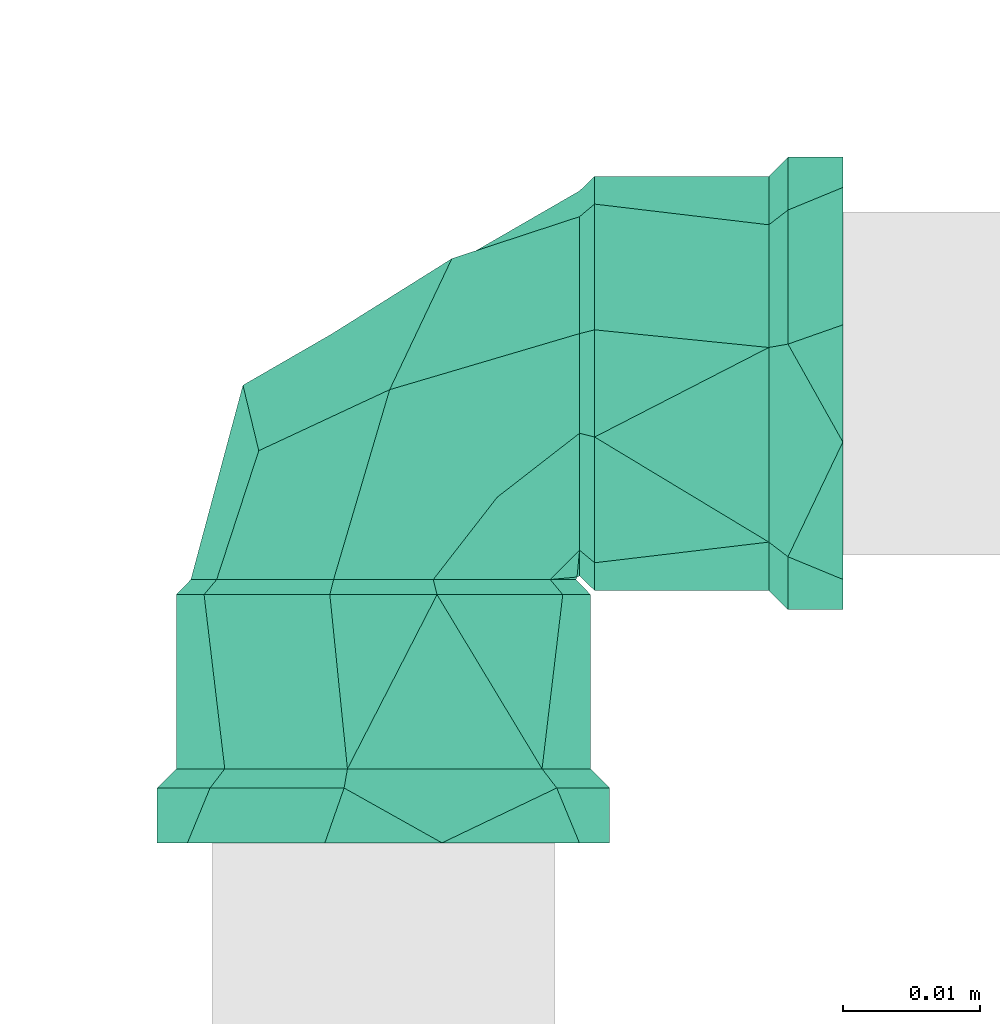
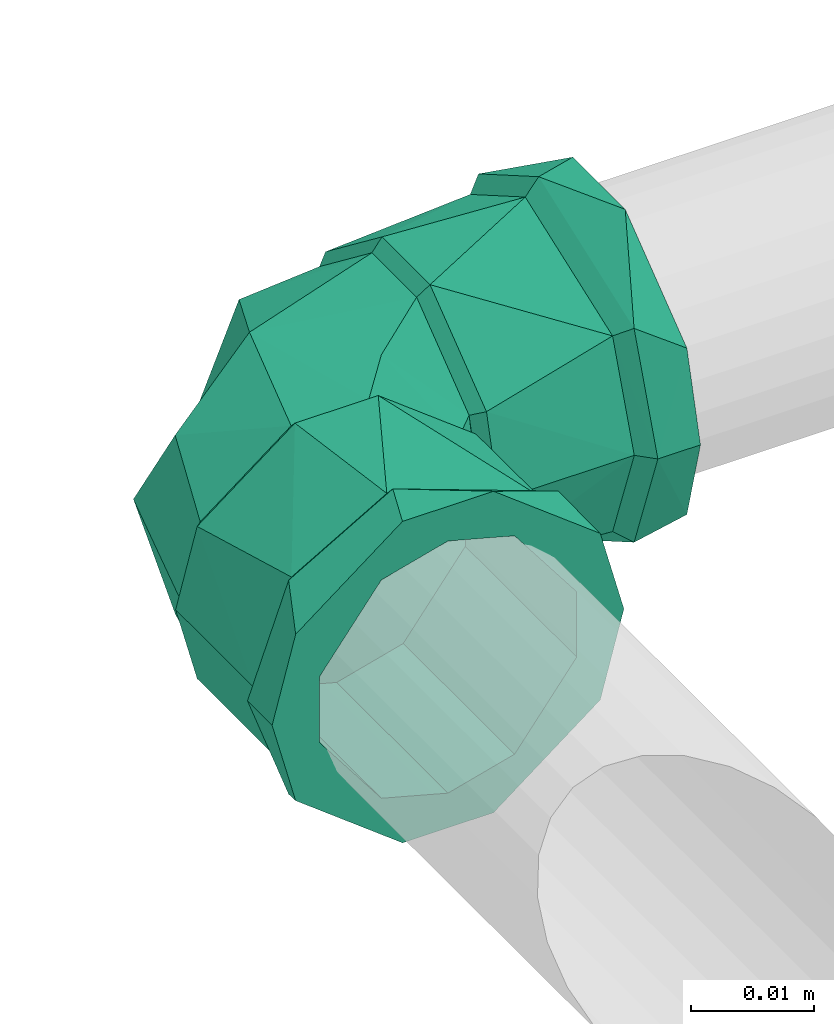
# One storey, part 336 of 589: 1 flow fitting.
"""IFC2X3 building model written with IfcOpenShell, lengths in millimetres."""

import ifcopenshell
import ifcopenshell.guid

model = None  # the IFC model being written
_history = None  # IfcOwnerHistory: only IFC2X3 demands one
_inside = {}  # id of a spatial element -> (the spatial element, [elements in it])
_under = {}  # id of a project, library or spatial element -> (it, [spatial elements below it])
_declared = {}  # id of a project -> (the project, [libraries it declares])
_typed = {}  # id of a type object -> (the type object, [elements of that type])
_made_of = {}  # id of a material, layer set ... -> (it, [elements and type objects made of it])


def new_model(schema):
    """Start an empty IFC model of exactly this schema.

    Asked for "IFC4X3", IfcOpenShell would pick the latest addendum, in which some entities
    have other attributes; the version numbers below select the first issue.
    IFC2X3 requires an IfcOwnerHistory on every rooted entity: one is made here for all.
    """
    global model, _history
    if schema == "IFC4X3":
        model = ifcopenshell.file(schema_version=(4, 3, 0, 0))
    else:
        model = ifcopenshell.file(schema=schema)
    _inside.clear()
    _under.clear()
    _declared.clear()
    _typed.clear()
    _made_of.clear()
    _history = None
    if model.schema == "IFC2X3":
        org = make("IfcOrganization", Name="unknown")
        user = make(
            "IfcPersonAndOrganization",
            ThePerson=make("IfcPerson", FamilyName="unknown"),
            TheOrganization=org,
        )
        app = make(
            "IfcApplication",
            ApplicationDeveloper=org,
            Version="unknown",
            ApplicationFullName="unknown",
            ApplicationIdentifier="unknown",
        )
        _history = make(
            "IfcOwnerHistory",
            OwningUser=user,
            OwningApplication=app,
            ChangeAction="ADDED",
            CreationDate=0,
        )
    return model


def make(cls, **values):
    """One entity of the class cls with the attributes given. An attribute that is None is left unset."""
    return model.create_entity(
        cls, **{name: value for name, value in values.items() if value is not None}
    )


def entity(cls, *values):
    """Any entity or typed value of the class cls, its attributes in the order of the schema. None: left unset."""
    e = model.create_entity(cls)
    for i, value in enumerate(values):
        if value is not None:
            e[i] = value
    return e


def rooted(cls, **values):
    """An entity with a GlobalId (a new one), such as an element, a storey or a relation."""
    return make(cls, GlobalId=ifcopenshell.guid.new(), OwnerHistory=_history, **values)


def si_unit(unit_type, name, prefix=None):
    """IfcSIUnit, for example si_unit("LENGTHUNIT", "METRE", prefix="MILLI")."""
    return make("IfcSIUnit", UnitType=unit_type, Prefix=prefix, Name=name)


def converted_unit(unit_type, name, factor, base, dimensions=None, offset=None):
    """IfcConversionBasedUnit, such as the inch: factor (a typed value) times the base unit."""
    return make(
        "IfcConversionBasedUnit"
        if offset is None
        else "IfcConversionBasedUnitWithOffset",
        ConversionOffset=offset,
        Dimensions=None
        if dimensions is None
        else entity("IfcDimensionalExponents", *dimensions),
        UnitType=unit_type,
        Name=name,
        ConversionFactor=make(
            "IfcMeasureWithUnit", ValueComponent=factor, UnitComponent=base
        ),
    )


def derived_unit(unit_type, elements):
    """IfcDerivedUnit: a product of units, each with its exponent."""
    return make(
        "IfcDerivedUnit",
        Elements=[
            make("IfcDerivedUnitElement", Unit=unit, Exponent=power)
            for unit, power in elements
        ],
        UnitType=unit_type,
    )


def assignment(units):
    """IfcUnitAssignment: the units of a project."""
    return None if units is None else make("IfcUnitAssignment", Units=units)


def point(xyz):
    """IfcCartesianPoint."""
    return None if xyz is None else make("IfcCartesianPoint", Coordinates=xyz)


def direction(xyz):
    """IfcDirection."""
    return None if xyz is None else make("IfcDirection", DirectionRatios=xyz)


def frame(location, z_axis=None, x_axis=None):
    """IfcAxis2Placement3D, a coordinate frame: its origin and axes. An axis left out is left unset."""
    return make(
        "IfcAxis2Placement3D",
        Location=point(location),
        Axis=direction(z_axis),
        RefDirection=direction(x_axis),
    )


def origin():
    """The frame at (0, 0, 0) with its axes left unset."""
    return frame((0.0, 0.0, 0.0))


def place(relative_to, where):
    """IfcLocalPlacement: puts the frame where relative to a parent placement (None: the world)."""
    return make(
        "IfcLocalPlacement", PlacementRelTo=relative_to, RelativePlacement=where
    )


def context(
    kind, dimensions, precision=None, world=None, true_north=None, identifier=None
):
    """IfcGeometricRepresentationContext, for example the 3D "Model" context."""
    return make(
        "IfcGeometricRepresentationContext",
        ContextIdentifier=identifier,
        ContextType=kind,
        CoordinateSpaceDimension=dimensions,
        Precision=precision,
        WorldCoordinateSystem=world,
        TrueNorth=true_north,
    )


def subcontext(parent, identifier, kind, view, scale=None):
    """IfcGeometricRepresentationSubContext, for example "Body" below "Model"."""
    return make(
        "IfcGeometricRepresentationSubContext",
        ContextIdentifier=identifier,
        ContextType=kind,
        ParentContext=parent,
        TargetScale=scale,
        TargetView=view,
    )


def project(units=None, contexts=None):
    """IfcProject with its units and contexts."""
    return rooted(
        "IfcProject",
        Name="project",
        RepresentationContexts=contexts,
        UnitsInContext=assignment(units),
    )


def spatial(cls, under=None, at=None, **own):
    """A site, building, storey or space (cls), placed at a placement, below another one or the project."""
    s = rooted(cls, ObjectPlacement=at, **own)
    if under is not None:
        _under.setdefault(under.id(), (under, []))[1].append(s)
    return s


def faces_of(points, faces, orient=None, outer=None):
    """IfcFace entities. A face is a list of loops; a loop is a list of indices into points, from 0.

    orient and outer hold one flag for each loop. By default every Orientation is true, the
    first loop of a face is its IfcFaceOuterBound and the others are IfcFaceBound.
    """
    made = []
    for i, loops in enumerate(faces):
        bounds = []
        for j, loop in enumerate(loops):
            is_outer = j == 0 if outer is None else outer[i][j]
            bounds.append(
                make(
                    "IfcFaceOuterBound" if is_outer else "IfcFaceBound",
                    Bound=make("IfcPolyLoop", Polygon=[points[k] for k in loop]),
                    Orientation=True if orient is None else orient[i][j],
                )
            )
        made.append(make("IfcFace", Bounds=bounds))
    return made


def faceted_brep(points, faces, orient=None, outer=None, voids=None):
    """IfcFacetedBrep: a solid bounded by flat faces; with voids (closed shells), ...WithVoids."""
    shared = [point(p) for p in points]
    hull = make("IfcClosedShell", CfsFaces=faces_of(shared, faces, orient, outer))
    if voids is None:
        return make("IfcFacetedBrep", Outer=hull)
    return make(
        "IfcFacetedBrepWithVoids",
        Outer=hull,
        Voids=[
            make(cls, CfsFaces=faces_of(shared, fs, o, b)) for cls, fs, o, b in voids
        ],
    )


def shape(context_of_items, identifier, shape_type, items):
    """IfcShapeRepresentation: the items that make up one representation, for example the "Body"."""
    return make(
        "IfcShapeRepresentation",
        ContextOfItems=context_of_items,
        RepresentationIdentifier=identifier,
        RepresentationType=shape_type,
        Items=items,
    )


def source(mapping_origin, context_of_items, identifier, shape_type, items):
    """IfcRepresentationMap: a shape defined once, which mapped items show again and again."""
    return make(
        "IfcRepresentationMap",
        MappingOrigin=mapping_origin,
        MappedRepresentation=shape(context_of_items, identifier, shape_type, items),
    )


def transform(
    local_origin,
    x_axis=None,
    y_axis=None,
    z_axis=None,
    scale=None,
    scale2=None,
    scale3=None,
    uniform=True,
):
    """IfcCartesianTransformationOperator3D, or its non-uniform kind. x_axis, y_axis, z_axis: its Axis1, 2, 3."""
    if uniform:
        return make(
            "IfcCartesianTransformationOperator3D",
            Axis1=direction(x_axis),
            Axis2=direction(y_axis),
            LocalOrigin=point(local_origin),
            Scale=scale,
            Axis3=direction(z_axis),
        )
    return make(
        "IfcCartesianTransformationOperator3DnonUniform",
        Axis1=direction(x_axis),
        Axis2=direction(y_axis),
        LocalOrigin=point(local_origin),
        Scale=scale,
        Axis3=direction(z_axis),
        Scale2=scale2,
        Scale3=scale3,
    )


def mapped(mapping_source, mapping_target):
    """IfcMappedItem: shows the shape of a source again, moved by a transform."""
    return make(
        "IfcMappedItem", MappingSource=mapping_source, MappingTarget=mapping_target
    )


def material(Name=None, Category=None):
    """IfcMaterial."""
    return make("IfcMaterial", Name=Name, Category=Category)


def made_of(thing, what):
    """Note that an element or type object is made of a material, layer set ...; save() writes the relation."""
    if what is not None:
        _made_of.setdefault(what.id(), (what, []))[1].append(thing)
    return thing


def type_object(cls, material=None, **own):
    """A type object (cls), such as IfcWallType, which elements share."""
    return made_of(rooted(cls, **own), material)


def type_shapes(of_type, sources):
    """Give a type object the sources (RepresentationMaps) that its elements show as mapped items."""
    of_type.RepresentationMaps = sources


def element(
    cls,
    number,
    at=None,
    inside=None,
    cuts=None,
    type_object=None,
    material=None,
    context=None,
    identifier="Body",
    shape_type=None,
    held_by="IfcProductDefinitionShape",
    body=None,
    shapes=None,
    **own,
):
    """One element of the class cls, such as IfcWall. Its Tag is "e" and its number.

    at: its placement. inside: the storey or other place that contains it. cuts: it is an
    opening in that element (IfcRelVoidsElement). A single representation is given by context,
    identifier, shape_type and body (its items); several are given by shapes. held_by: the class
    of the entity that holds the representations. save() writes the other relations.
    """
    e = rooted(cls, Tag="e%d" % number, ObjectPlacement=at, **own)
    if body is not None:
        shapes = [shape(context, identifier, shape_type, body)]
    if shapes is not None:
        e.Representation = make(held_by, Representations=shapes)
    if inside is not None:
        _inside.setdefault(inside.id(), (inside, []))[1].append(e)
    if cuts is not None:
        rooted(
            "IfcRelVoidsElement", RelatingBuildingElement=cuts, RelatedOpeningElement=e
        )
    if type_object is not None:
        _typed.setdefault(type_object.id(), (type_object, []))[1].append(e)
    return made_of(e, material)


def aggregate(whole, parts):
    """IfcRelAggregates: a whole, such as a stair, and the parts it consists of."""
    return rooted("IfcRelAggregates", RelatingObject=whole, RelatedObjects=parts)


def save(model, path):
    """Write the relations noted so far, then the file.

    IfcRelAggregates (storeys below a building ...), IfcRelContainedInSpatialStructure (elements
    in a storey), IfcRelDefinesByType, IfcRelAssociatesMaterial and IfcRelDeclares: one each for
    every whole, place, type object, material and project.
    """
    for whole, parts in _under.values():
        aggregate(whole, parts)
    for where, things in _inside.values():
        rooted(
            "IfcRelContainedInSpatialStructure",
            RelatedElements=things,
            RelatingStructure=where,
        )
    for kind, things in _typed.values():
        rooted("IfcRelDefinesByType", RelatedObjects=things, RelatingType=kind)
    for what, things in _made_of.values():
        rooted("IfcRelAssociatesMaterial", RelatedObjects=things, RelatingMaterial=what)
    for by, libraries in _declared.values():
        rooted("IfcRelDeclares", RelatingContext=by, RelatedDefinitions=libraries)
    model.write(path)


model = new_model("IFC2X3")

# Units and contexts
model_context = context("Model", 3, precision=0.01, world=origin(), true_north=direction((6.123031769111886e-17, 1.0)))
body_context = subcontext(model_context, "Body", "Model", "MODEL_VIEW")
ifc_project = project(units=[si_unit("LENGTHUNIT", "METRE", prefix="MILLI"), si_unit("AREAUNIT", "SQUARE_METRE"), si_unit("VOLUMEUNIT", "CUBIC_METRE"), converted_unit("PLANEANGLEUNIT", "DEGREE", entity("IfcRatioMeasure", 0.017453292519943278), si_unit("PLANEANGLEUNIT", "RADIAN"), dimensions=[0, 0, 0, 0, 0, 0, 0]), si_unit("MASSUNIT", "GRAM", prefix="KILO"), derived_unit("MASSDENSITYUNIT", [(si_unit("MASSUNIT", "GRAM", prefix="KILO"), 1), (si_unit("LENGTHUNIT", "METRE"), -3)]), derived_unit("IONCONCENTRATIONUNIT", [(si_unit("MASSUNIT", "GRAM", prefix="KILO"), 1), (si_unit("LENGTHUNIT", "METRE"), -3)]), derived_unit("MOMENTOFINERTIAUNIT", [(si_unit("LENGTHUNIT", "METRE"), 4)]), si_unit("TIMEUNIT", "SECOND"), si_unit("FREQUENCYUNIT", "HERTZ"), si_unit("THERMODYNAMICTEMPERATUREUNIT", "DEGREE_CELSIUS"), derived_unit("THERMALTRANSMITTANCEUNIT", [(si_unit("MASSUNIT", "GRAM", prefix="KILO"), 1), (si_unit("THERMODYNAMICTEMPERATUREUNIT", "KELVIN"), -1), (si_unit("TIMEUNIT", "SECOND"), -3)]), derived_unit("THERMALCONDUCTANCEUNIT", [(si_unit("MASSUNIT", "GRAM", prefix="KILO"), 1), (si_unit("THERMODYNAMICTEMPERATUREUNIT", "KELVIN"), -1), (si_unit("TIMEUNIT", "SECOND"), -3), (si_unit("LENGTHUNIT", "METRE"), 1)]), derived_unit("VOLUMETRICFLOWRATEUNIT", [(si_unit("LENGTHUNIT", "METRE"), 3), (si_unit("TIMEUNIT", "SECOND"), -1)]), derived_unit("MASSFLOWRATEUNIT", [(si_unit("MASSUNIT", "GRAM", prefix="KILO"), 1), (si_unit("TIMEUNIT", "SECOND"), -1)]), derived_unit("ROTATIONALFREQUENCYUNIT", [(si_unit("TIMEUNIT", "SECOND"), -1)]), si_unit("ELECTRICCURRENTUNIT", "AMPERE"), si_unit("ELECTRICVOLTAGEUNIT", "VOLT"), si_unit("POWERUNIT", "WATT"), si_unit("FORCEUNIT", "NEWTON", prefix="KILO"), si_unit("ILLUMINANCEUNIT", "LUX"), si_unit("LUMINOUSFLUXUNIT", "LUMEN"), si_unit("LUMINOUSINTENSITYUNIT", "CANDELA"), derived_unit("USERDEFINED", [(si_unit("MASSUNIT", "GRAM", prefix="KILO"), -1), (si_unit("LENGTHUNIT", "METRE"), -2), (si_unit("TIMEUNIT", "SECOND"), 3), (si_unit("LUMINOUSFLUXUNIT", "LUMEN"), 1)]), derived_unit("USERDEFINED", [(si_unit("MASSUNIT", "GRAM", prefix="KILO"), 1), (si_unit("TIMEUNIT", "SECOND"), -3), (si_unit("LENGTHUNIT", "METRE"), 3), (si_unit("ELECTRICCURRENTUNIT", "AMPERE"), -2)]), derived_unit("SOUNDPOWERUNIT", [(si_unit("MASSUNIT", "GRAM", prefix="KILO"), 1), (si_unit("TIMEUNIT", "SECOND"), -3), (si_unit("LENGTHUNIT", "METRE"), 2)]), derived_unit("SOUNDPRESSUREUNIT", [(si_unit("MASSUNIT", "GRAM", prefix="KILO"), 1), (si_unit("LENGTHUNIT", "METRE"), -1), (si_unit("TIMEUNIT", "SECOND"), -2)]), derived_unit("LINEARVELOCITYUNIT", [(si_unit("LENGTHUNIT", "METRE"), 1), (si_unit("TIMEUNIT", "SECOND"), -1)]), si_unit("PRESSUREUNIT", "PASCAL"), derived_unit("USERDEFINED", [(si_unit("MASSUNIT", "GRAM", prefix="KILO"), 1), (si_unit("LENGTHUNIT", "METRE"), -2), (si_unit("TIMEUNIT", "SECOND"), -2)]), derived_unit("LINEARFORCEUNIT", [(si_unit("MASSUNIT", "GRAM", prefix="KILO"), 1), (si_unit("TIMEUNIT", "SECOND"), -2)]), derived_unit("PLANARFORCEUNIT", [(si_unit("MASSUNIT", "GRAM", prefix="KILO"), 1), (si_unit("LENGTHUNIT", "METRE"), -1), (si_unit("TIMEUNIT", "SECOND"), -2)]), derived_unit("SPECIFICHEATCAPACITYUNIT", [(si_unit("THERMODYNAMICTEMPERATUREUNIT", "KELVIN"), -1), (si_unit("LENGTHUNIT", "METRE"), 2), (si_unit("TIMEUNIT", "SECOND"), -2)]), derived_unit("HEATINGVALUEUNIT", [(si_unit("LENGTHUNIT", "METRE"), 2), (si_unit("TIMEUNIT", "SECOND"), -2)]), derived_unit("VAPORPERMEABILITYUNIT", [(si_unit("LENGTHUNIT", "METRE"), -1), (si_unit("TIMEUNIT", "SECOND"), 1)]), derived_unit("DYNAMICVISCOSITYUNIT", [(si_unit("MASSUNIT", "GRAM", prefix="KILO"), 1), (si_unit("TIMEUNIT", "SECOND"), -1), (si_unit("LENGTHUNIT", "METRE"), -1)]), derived_unit("THERMALEXPANSIONCOEFFICIENTUNIT", [(si_unit("THERMODYNAMICTEMPERATUREUNIT", "KELVIN"), -1)]), derived_unit("MODULUSOFELASTICITYUNIT", [(si_unit("MASSUNIT", "GRAM", prefix="KILO"), 1), (si_unit("LENGTHUNIT", "METRE"), -1), (si_unit("TIMEUNIT", "SECOND"), -2)]), derived_unit("ISOTHERMALMOISTURECAPACITYUNIT", [(si_unit("LENGTHUNIT", "METRE"), 3), (si_unit("MASSUNIT", "GRAM", prefix="KILO"), -1)]), derived_unit("MOISTUREDIFFUSIVITYUNIT", [(si_unit("TIMEUNIT", "SECOND"), -1), (si_unit("LENGTHUNIT", "METRE"), 2)])], contexts=[model_context])

# Site, building, storey
site_placement = place(None, origin())
site = spatial("IfcSite", under=ifc_project, at=site_placement, Name="Default", CompositionType="ELEMENT")
building_placement = place(site_placement, origin())
building = spatial("IfcBuilding", under=site, at=building_placement, CompositionType="ELEMENT")
storey_placement = place(building_placement, frame((0.0, 0.0, 100.0)))
storey = spatial("IfcBuildingStorey", under=building, at=storey_placement, Name="TÉRREO", CompositionType="ELEMENT", Elevation=100.0)

# Flow fitting
ifc_material = material(Name="PVC Marrom")
pipe_fitting_type = type_object("IfcPipeFittingType", Name="PVC Marrom Soldável_Joelho 45°_90°_Rodrigo MEP:Joelho", PredefinedType="NOTDEFINED", material=ifc_material)
shared_shape = source(origin(), body_context, "Body", "Brep", [
    faceted_brep([(-3.908167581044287, -15.40000000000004, 14.585479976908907), (-13.076983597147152, -15.40000000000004, 7.549999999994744), (-15.10000000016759, -15.40000000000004, 0.0), (-13.076983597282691, -15.40000000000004, -7.550000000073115), (-3.9081675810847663, -15.40000000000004, -14.585479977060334), (3.9081675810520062, -15.40000000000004, -14.585479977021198), (13.076983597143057, -15.40000000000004, -7.55000000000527), (15.099999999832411, -15.40000000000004, 0.0), (13.076983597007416, -15.40000000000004, 7.549999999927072), (3.908167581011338, -15.40000000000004, 14.585479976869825), (3.6338193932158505, -14.30000000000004, 13.561598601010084), (12.158996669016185, -14.30000000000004, 7.0199999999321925), (14.040000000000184, -14.30000000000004, 0.0), (12.158996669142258, -14.30000000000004, -7.020000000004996), (3.6338193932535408, -14.30000000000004, -13.561598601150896), (-3.6338193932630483, -14.30000000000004, -13.561598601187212), (-12.158996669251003, -14.30000000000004, -7.020000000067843), (-14.039999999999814, -14.30000000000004, 0.0), (-12.158996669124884, -14.30000000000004, 7.0199999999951), (-3.633819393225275, -14.30000000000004, 13.561598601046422)], [[[0, 1, 2, 3, 4, 5, 6, 7, 8, 9]], [[10, 11, 12, 13, 14, 15, 16, 17, 18, 19]], [[13, 12, 6]], [[14, 13, 6, 5]], [[12, 7, 6]], [[5, 4, 15, 14]], [[16, 15, 4, 3]], [[17, 16, 2]], [[16, 3, 2]], [[18, 17, 1]], [[19, 18, 1, 0]], [[17, 2, 1]], [[0, 9, 10, 19]], [[11, 10, 9, 8]], [[12, 11, 7]], [[11, 8, 7]]]),
    faceted_brep([(-15.399999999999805, -3.908167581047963, 14.585479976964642), (-15.399999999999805, 3.908167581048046, 14.585479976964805), (-15.399999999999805, 13.076983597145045, 7.550000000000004), (-15.399999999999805, 15.100000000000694, 0.0), (-15.399999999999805, 13.0769835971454, -7.550000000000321), (-15.399999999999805, 3.9081675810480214, -14.585479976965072), (-15.399999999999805, -3.9081675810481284, -14.58547997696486), (-15.399999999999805, -13.076983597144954, -7.54999999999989), (-15.399999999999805, -15.099999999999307, 0.0), (-15.399999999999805, -13.076983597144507, 7.549999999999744), (-14.299999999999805, 3.633819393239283, 13.56159860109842), (-14.299999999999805, -3.6338193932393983, 13.561598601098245), (-14.299999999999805, -12.158996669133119, 7.019999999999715), (-14.299999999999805, -14.040000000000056, 0.0), (-14.299999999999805, -12.158996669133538, -7.019999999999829), (-14.299999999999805, -3.6338193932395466, -13.56159860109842), (-14.299999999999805, 3.63381939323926, -13.561598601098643), (-14.299999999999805, 12.158996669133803, -7.020000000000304), (-14.299999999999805, 14.039999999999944, 0.0), (-14.299999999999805, 12.15899666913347, 7.020000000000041)], [[[0, 1, 2, 3, 4, 5, 6, 7, 8, 9]], [[10, 11, 12, 13, 14, 15, 16, 17, 18, 19]], [[14, 13, 8, 7]], [[15, 14, 7, 6]], [[6, 5, 16, 15]], [[17, 16, 5, 4]], [[18, 17, 4, 3]], [[19, 18, 3, 2]], [[10, 19, 2, 1]], [[1, 0, 11, 10]], [[12, 11, 0, 9]], [[13, 12, 9, 8]]]),
    faceted_brep([(-33.4999999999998, 0.0, -12.5), (-33.4999999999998, 6.250000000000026, -10.825317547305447), (-33.4999999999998, 4.2705142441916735, -15.937776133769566), (-33.4999999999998, -4.270514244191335, -15.937776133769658), (-33.4999999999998, -6.250000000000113, -10.82531754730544), (-33.4999999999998, 14.289419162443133, -8.25000000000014), (-33.4999999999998, 12.074072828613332, -3.23523806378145), (-33.4999999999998, 16.5, 0.0), (-33.4999999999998, 12.074072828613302, 3.2352380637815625), (-33.4999999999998, 14.289419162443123, 8.249999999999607), (-33.4999999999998, 6.249999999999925, 10.825317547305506), (-33.4999999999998, 4.27051424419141, 15.937776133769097), (-33.4999999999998, 0.0, 12.5), (-33.4999999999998, -4.270514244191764, 15.937776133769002), (-33.4999999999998, -6.249999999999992, 10.825317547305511), (-33.4999999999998, -14.28941916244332, 8.249999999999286), (-33.4999999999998, -12.074072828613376, 3.2352380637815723), (-33.4999999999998, -16.5, 0.0), (-33.4999999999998, -12.074072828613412, -3.235238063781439), (-33.4999999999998, -14.289419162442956, -8.250000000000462), (-29.499999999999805, -16.5, 0.0), (-29.500000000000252, -12.639142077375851, 10.606700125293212), (-29.50000000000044, -4.885841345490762, 13.427814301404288), (-29.5000000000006, 2.8674593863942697, 16.24892847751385), (-29.50000000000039, 12.64180232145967, 10.603529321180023), (-29.499999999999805, 16.499999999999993, 0.0), (-29.49999999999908, 12.641802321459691, -10.603529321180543), (-29.499999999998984, 4.889209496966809, -13.426588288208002), (-29.4999999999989, -2.8633833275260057, -16.249647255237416), (-29.499999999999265, -12.639142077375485, -10.606700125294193), (-28.10000000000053, 11.56916454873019, 9.703835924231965), (-28.099999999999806, 15.099999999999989, 0.0), (-28.10000000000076, 2.624159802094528, 14.870231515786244), (-28.100000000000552, -4.471285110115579, 12.288484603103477), (-28.100000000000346, -11.566730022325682, 9.706737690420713), (-28.09999999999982, -15.099999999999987, 0.0), (-28.099999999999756, -11.566730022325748, -9.706737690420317), (-28.099999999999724, -2.620429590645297, -14.87088930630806), (-28.099999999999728, 4.4743674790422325, -12.287362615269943), (-28.09999999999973, 11.569164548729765, -9.703835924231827), (-15.399999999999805, 3.908167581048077, -14.585479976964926), (-15.399999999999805, 6.250000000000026, -10.825317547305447), (-15.399999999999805, 0.0, -12.5), (-15.399999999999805, 13.076983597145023, -7.549999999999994), (-15.399999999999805, -3.9081675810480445, -14.585479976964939), (-15.399999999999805, 12.074072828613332, -3.23523806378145), (-15.399999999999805, 15.099999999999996, 0.0), (-15.399999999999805, 12.074072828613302, 3.2352380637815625), (-15.399999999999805, 13.076983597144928, 7.550000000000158), (-15.399999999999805, 6.249999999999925, 10.825317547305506), (-15.399999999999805, 3.9081675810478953, 14.585479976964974), (-15.399999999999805, 0.0, 12.5), (-15.399999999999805, -3.9081675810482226, 14.58547997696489), (-15.399999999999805, -6.249999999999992, 10.825317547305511), (-15.399999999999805, -13.076983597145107, 7.549999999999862), (-15.399999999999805, -12.074072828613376, 3.2352380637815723), (-15.399999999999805, -15.100000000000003, 0.0), (-15.399999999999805, -12.074072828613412, -3.235238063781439), (-15.399999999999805, -13.076983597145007, -7.550000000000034), (-15.399999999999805, -6.250000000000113, -10.82531754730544)], [[[0, 1, 2]], [[2, 3, 0]], [[4, 0, 3]], [[5, 2, 1]], [[1, 6, 5]], [[6, 7, 5]], [[8, 7, 6]], [[7, 8, 9]], [[10, 9, 8]], [[9, 10, 11]], [[12, 11, 10]], [[13, 11, 12]], [[12, 14, 13]], [[13, 14, 15]], [[16, 15, 14]], [[15, 16, 17]], [[16, 18, 17]], [[19, 18, 4]], [[17, 18, 19]], [[3, 19, 4]], [[20, 15, 17]], [[20, 21, 15]], [[13, 15, 21]], [[13, 21, 22, 23]], [[9, 11, 24]], [[7, 9, 25]], [[23, 24, 11]], [[25, 9, 24]], [[13, 23, 11]], [[25, 5, 7]], [[25, 26, 5]], [[2, 5, 26]], [[2, 26, 27, 28]], [[19, 3, 29]], [[17, 19, 20]], [[28, 29, 3]], [[20, 19, 29]], [[2, 28, 3]], [[24, 30, 31, 25]], [[30, 24, 23, 32]], [[33, 32, 23, 22, 21, 34]], [[20, 35, 34, 21]], [[29, 36, 35, 20]], [[36, 29, 28, 37]], [[38, 37, 28, 27, 26, 39]], [[25, 31, 39, 26]], [[40, 41, 42]], [[41, 40, 43]], [[42, 44, 40]], [[43, 45, 41]], [[43, 46, 45]], [[45, 46, 47]], [[48, 47, 46]], [[47, 48, 49]], [[50, 49, 48]], [[49, 50, 51]], [[51, 50, 52]], [[52, 53, 51]], [[54, 53, 52]], [[53, 54, 55]], [[56, 55, 54]], [[56, 57, 55]], [[58, 57, 56]], [[59, 57, 58]], [[59, 58, 44]], [[44, 42, 59]], [[54, 34, 35]], [[56, 54, 35]], [[52, 34, 54]], [[52, 32, 33, 34]], [[30, 32, 50]], [[31, 30, 48]], [[50, 48, 30]], [[46, 31, 48]], [[52, 50, 32]], [[43, 39, 31]], [[46, 43, 31]], [[40, 39, 43]], [[40, 37, 38, 39]], [[36, 37, 44]], [[35, 36, 58]], [[44, 58, 36]], [[56, 35, 58]], [[40, 44, 37]], [[49, 51, 12, 10]], [[47, 49, 10, 8]], [[8, 6, 45, 47]], [[41, 45, 6, 1]], [[42, 41, 1, 0]], [[59, 42, 0, 4]], [[57, 59, 4, 18]], [[18, 16, 55, 57]], [[53, 55, 16, 14]], [[51, 53, 14, 12]]]),
    faceted_brep([(-14.299999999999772, 3.6338193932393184, -13.561598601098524), (-14.299999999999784, -3.63381939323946, -13.561598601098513), (-14.299999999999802, -12.158996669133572, -7.019999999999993), (-14.299999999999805, -14.04000000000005, 0.0), (-14.299999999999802, -12.158996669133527, 7.0200000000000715), (-14.299999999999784, -3.633819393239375, 13.561598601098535), (-14.299999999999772, 3.6338193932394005, 13.561598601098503), (-14.299999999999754, 12.158996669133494, 7.019999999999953), (-14.29999999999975, 14.039999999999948, 0.0), (-14.299999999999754, 12.158996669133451, -7.020000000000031), (3.633819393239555, -14.29999999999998, -13.561598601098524), (12.158996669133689, -14.299999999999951, -7.020000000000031), (14.040000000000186, -14.299999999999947, 0.0), (12.158996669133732, -14.299999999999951, 7.019999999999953), (3.6338193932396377, -14.29999999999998, 13.561598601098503), (-3.6338193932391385, -14.300000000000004, 13.561598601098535), (-12.158996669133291, -14.300000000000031, 7.0200000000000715), (-14.039999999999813, -14.300000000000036, 0.0), (-12.158996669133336, -14.300000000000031, -7.019999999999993), (-3.633819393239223, -14.300000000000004, -13.561598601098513), (-0.12999999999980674, 10.243159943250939, 0.0), (-8.296884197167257, -8.296884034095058, 12.78130953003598), (-0.45476175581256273, -0.4547603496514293, 13.009299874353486), (-4.9057767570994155, 9.090331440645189, 8.841582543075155), (3.6031967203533, 3.777073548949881, 0.0), (9.102895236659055, -4.991225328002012, 8.866254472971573), (-14.116152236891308, -14.116152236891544, 0.0), (7.336393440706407, -2.689012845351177, 0.0), (-4.905776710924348, 9.090331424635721, -8.841582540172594), (-0.45476143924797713, -0.45476027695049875, -13.009299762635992), (9.102895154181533, -4.991225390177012, -8.866254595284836), (-8.296884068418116, -8.296883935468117, -12.78130960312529)], [[[0, 1, 2, 3, 4, 5, 6, 7, 8, 9]], [[10, 11, 12, 13, 14, 15, 16, 17, 18, 19]], [[7, 20, 8]], [[5, 21, 22]], [[7, 23, 20]], [[24, 23, 22]], [[14, 13, 25]], [[22, 6, 5]], [[24, 20, 23]], [[4, 3, 26]], [[4, 21, 5]], [[23, 6, 22]], [[14, 22, 15]], [[13, 27, 25]], [[15, 22, 21]], [[25, 22, 14]], [[6, 23, 7]], [[27, 24, 25]], [[16, 26, 17]], [[22, 25, 24]], [[4, 26, 16]], [[21, 16, 15]], [[16, 21, 4]], [[12, 27, 13]], [[28, 29, 0]], [[11, 10, 30]], [[18, 2, 31]], [[1, 29, 31]], [[20, 9, 8]], [[30, 29, 24]], [[0, 9, 28]], [[1, 0, 29]], [[19, 31, 29]], [[1, 31, 2]], [[26, 3, 2]], [[18, 17, 26]], [[30, 10, 29]], [[24, 27, 30]], [[31, 19, 18]], [[10, 19, 29]], [[27, 12, 11]], [[24, 29, 28]], [[24, 28, 20]], [[20, 28, 9]], [[30, 27, 11]], [[26, 2, 18]]]),
    faceted_brep([(-3.908167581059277, -15.40000000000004, -14.585479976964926), (-6.249999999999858, -15.40000000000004, -10.825317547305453), (0.0, -15.40000000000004, -12.5), (-13.076983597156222, -15.40000000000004, -7.549999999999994), (3.9081675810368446, -15.40000000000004, -14.585479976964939), (-12.07407282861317, -15.40000000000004, -3.235238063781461), (-15.100000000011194, -15.40000000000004, 0.0), (-12.074072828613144, -15.40000000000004, 3.2352380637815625), (-13.076983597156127, -15.40000000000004, 7.550000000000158), (-6.249999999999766, -15.40000000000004, 10.825317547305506), (-3.9081675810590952, -15.40000000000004, 14.585479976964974), (0.0, -15.40000000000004, 12.5), (3.9081675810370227, -15.40000000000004, 14.58547997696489), (6.250000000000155, -15.40000000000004, 10.825317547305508), (13.076983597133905, -15.40000000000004, 7.549999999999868), (12.074072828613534, -15.40000000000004, 3.2352380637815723), (15.099999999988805, -15.40000000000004, 0.0), (12.07407282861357, -15.40000000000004, -3.235238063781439), (13.07698359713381, -15.40000000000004, -7.550000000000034), (6.250000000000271, -15.40000000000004, -10.82531754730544), (11.56673002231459, -28.100000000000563, 9.706737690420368), (15.099999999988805, -28.10000000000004, 0.0), (2.6204295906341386, -28.100000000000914, 14.870889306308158), (-11.569164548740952, -28.10000000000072, 9.703835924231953), (-4.474367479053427, -28.100000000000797, 12.287362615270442), (-15.100000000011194, -28.10000000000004, 0.0), (-11.569164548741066, -28.10000000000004, -9.703835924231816), (-2.6241598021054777, -28.10000000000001, -14.870231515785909), (11.566730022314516, -28.10000000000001, -9.706737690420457), (4.471285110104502, -28.10000000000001, -12.288484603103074), (2.8674593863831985, -29.50000000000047, 16.248928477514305), (-4.8858413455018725, -29.500000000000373, 13.427814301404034), (-16.50000000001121, -29.500000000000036, 0.0), (-12.639142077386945, -29.50000000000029, 10.606700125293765), (12.641802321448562, -29.500000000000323, 10.603529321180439), (16.499999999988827, -29.50000000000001, 0.0), (12.64180232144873, -29.500000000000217, -10.603529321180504), (4.889209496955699, -29.50000000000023, -13.426588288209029), (-2.863383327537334, -29.500000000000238, -16.249647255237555), (-12.639142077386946, -29.500000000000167, -10.606700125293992), (0.0, -33.50000000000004, -12.5), (-6.249999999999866, -33.50000000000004, -10.825317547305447), (-4.270514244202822, -33.50000000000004, -15.937776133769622), (4.270514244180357, -33.50000000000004, -15.937776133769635), (6.250000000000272, -33.50000000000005, -10.82531754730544), (-14.289419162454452, -33.50000000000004, -8.249999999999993), (-12.074072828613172, -33.50000000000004, -3.23523806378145), (-16.50000000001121, -33.50000000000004, 0.0), (-12.074072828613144, -33.50000000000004, 3.2352380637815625), (-14.28941916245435, -33.50000000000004, 8.250000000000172), (-6.2499999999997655, -33.50000000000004, 10.825317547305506), (-4.270514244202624, -33.50000000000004, 15.937776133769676), (0.0, -33.50000000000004, 12.5), (4.270514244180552, -33.50000000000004, 15.937776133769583), (6.250000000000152, -33.50000000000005, 10.825317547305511), (14.289419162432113, -33.50000000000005, 8.249999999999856), (12.074072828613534, -33.50000000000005, 3.2352380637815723), (16.49999999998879, -33.50000000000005, 0.0), (12.07407282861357, -33.50000000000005, -3.235238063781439), (14.289419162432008, -33.50000000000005, -8.250000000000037)], [[[0, 1, 2]], [[1, 0, 3]], [[2, 4, 0]], [[3, 5, 1]], [[3, 6, 5]], [[5, 6, 7]], [[8, 7, 6]], [[7, 8, 9]], [[10, 9, 8]], [[9, 10, 11]], [[11, 10, 12]], [[12, 13, 11]], [[14, 13, 12]], [[13, 14, 15]], [[16, 15, 14]], [[16, 17, 15]], [[18, 17, 16]], [[19, 17, 18]], [[19, 18, 4]], [[4, 2, 19]], [[14, 20, 21]], [[16, 14, 21]], [[12, 20, 14]], [[12, 22, 20]], [[10, 23, 24, 22]], [[25, 23, 8]], [[10, 8, 23]], [[6, 25, 8]], [[12, 10, 22]], [[3, 26, 25]], [[6, 3, 25]], [[0, 26, 3]], [[0, 27, 26]], [[4, 28, 29, 27]], [[21, 28, 18]], [[4, 18, 28]], [[16, 21, 18]], [[0, 4, 27]], [[30, 22, 31]], [[32, 23, 25]], [[33, 23, 32]], [[31, 24, 33]], [[34, 21, 20]], [[24, 23, 33]], [[20, 30, 34]], [[21, 34, 35]], [[24, 31, 22]], [[22, 30, 20]], [[36, 28, 21]], [[21, 35, 36]], [[36, 37, 28]], [[37, 29, 28]], [[37, 38, 29]], [[32, 25, 26]], [[27, 39, 26]], [[32, 26, 39]], [[27, 29, 38]], [[38, 39, 27]], [[40, 41, 42]], [[42, 43, 40]], [[44, 40, 43]], [[45, 42, 41]], [[41, 46, 45]], [[46, 47, 45]], [[48, 47, 46]], [[47, 48, 49]], [[50, 49, 48]], [[49, 50, 51]], [[52, 51, 50]], [[53, 51, 52]], [[52, 54, 53]], [[53, 54, 55]], [[56, 55, 54]], [[55, 56, 57]], [[56, 58, 57]], [[59, 58, 44]], [[57, 58, 59]], [[43, 59, 44]], [[35, 55, 57]], [[35, 34, 55]], [[53, 55, 34]], [[30, 53, 34]], [[49, 51, 33]], [[47, 49, 32]], [[51, 30, 31, 33]], [[32, 49, 33]], [[53, 30, 51]], [[32, 45, 47]], [[32, 39, 45]], [[42, 45, 39]], [[38, 42, 39]], [[59, 43, 36]], [[57, 59, 35]], [[43, 38, 37, 36]], [[35, 59, 36]], [[42, 38, 43]], [[9, 11, 52, 50]], [[7, 9, 50, 48]], [[48, 46, 5, 7]], [[1, 5, 46, 41]], [[2, 1, 41, 40]], [[19, 2, 40, 44]], [[17, 19, 44, 58]], [[58, 56, 15, 17]], [[13, 15, 56, 54]], [[11, 13, 54, 52]]]),
])
type_shapes(pipe_fitting_type, [shared_shape])
flow_fitting_placement = place(storey_placement, frame((1531.7423921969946, -7970.828664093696, 1499.9999707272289), z_axis=(0.0, 5.031414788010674e-08, 1.0), x_axis=(0.0, 1.0, -5.031414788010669e-08)))
element("IfcFlowFitting", 1, at=flow_fitting_placement, inside=storey, type_object=pipe_fitting_type, material=ifc_material, Name="PVC Marrom Soldável_Joelho 45°_90°_Rodrigo MEP:Joelho", ObjectType="PVC Marrom Soldável_Joelho 45°_90°_Rodrigo MEP:Joelho", context=body_context, shape_type="MappedRepresentation", body=[
    mapped(shared_shape, transform((0.0, 0.0, 0.0), scale=1.0)),
])

save(model, "model.ifc")
